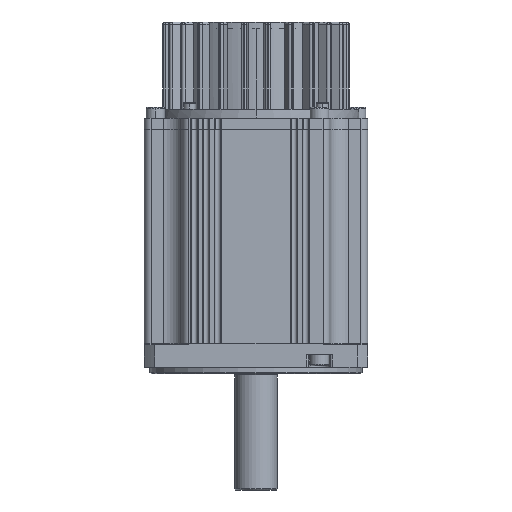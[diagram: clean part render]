
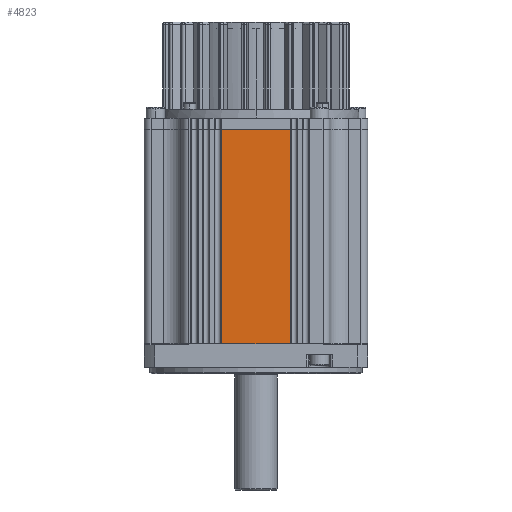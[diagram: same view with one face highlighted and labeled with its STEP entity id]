
A CAD part, front view. The second image highlights one B-rep face of the part: STEP entity #4823.
In plain terms, the highlighted planar face has unit normal (0, -1, 0).
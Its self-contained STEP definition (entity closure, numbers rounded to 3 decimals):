
#83=DIRECTION('',(1.,0.,0.));
#84=VECTOR('',#83,30.8);
#85=CARTESIAN_POINT('',(-15.4,-50.,0.));
#86=LINE('',#85,#84);
#1797=DIRECTION('',(1.,0.,0.));
#1798=VECTOR('',#1797,30.8);
#1799=CARTESIAN_POINT('',(-15.4,-50.,96.));
#1800=LINE('',#1799,#1798);
#1961=DIRECTION('',(0.,0.,-1.));
#1962=VECTOR('',#1961,96.);
#1963=CARTESIAN_POINT('',(-15.4,-50.,96.));
#1964=LINE('',#1963,#1962);
#1965=DIRECTION('',(0.,0.,1.));
#1966=VECTOR('',#1965,96.);
#1967=CARTESIAN_POINT('',(15.4,-50.,0.));
#1968=LINE('',#1967,#1966);
#2905=CARTESIAN_POINT('',(-15.4,-50.,0.));
#2907=VERTEX_POINT('',#2905);
#2911=CARTESIAN_POINT('',(-15.4,-50.,96.));
#2912=VERTEX_POINT('',#2911);
#2913=CARTESIAN_POINT('',(15.4,-50.,96.));
#2915=VERTEX_POINT('',#2913);
#2919=CARTESIAN_POINT('',(15.4,-50.,0.));
#2920=VERTEX_POINT('',#2919);
#4810=CARTESIAN_POINT('',(-33.,-50.,0.));
#4811=DIRECTION('',(0.,-1.,0.));
#4812=DIRECTION('',(1.,0.,0.));
#4813=AXIS2_PLACEMENT_3D('',#4810,#4811,#4812);
#4814=PLANE('',#4813);
#4816=ORIENTED_EDGE('',*,*,#4815,.F.);
#4817=ORIENTED_EDGE('',*,*,#4465,.T.);
#4819=ORIENTED_EDGE('',*,*,#4818,.F.);
#4820=ORIENTED_EDGE('',*,*,#3243,.F.);
#4821=EDGE_LOOP('',(#4816,#4817,#4819,#4820));
#4822=FACE_OUTER_BOUND('',#4821,.F.);
#4823=ADVANCED_FACE('',(#4822),#4814,.T.);
#3243=EDGE_CURVE('',#2907,#2920,#86,.T.);
#4465=EDGE_CURVE('',#2912,#2915,#1800,.T.);
#4815=EDGE_CURVE('',#2912,#2907,#1964,.T.);
#4818=EDGE_CURVE('',#2920,#2915,#1968,.T.);
